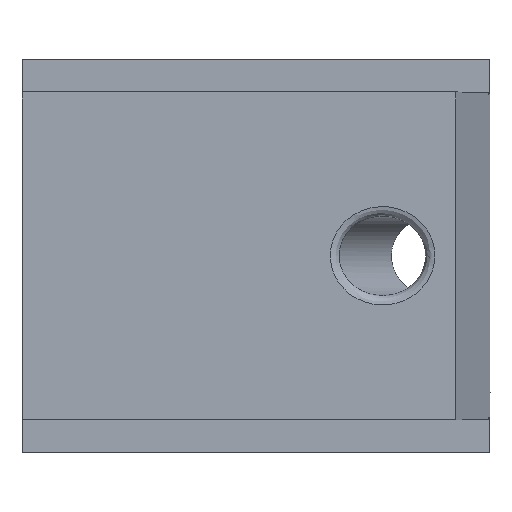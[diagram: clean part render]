
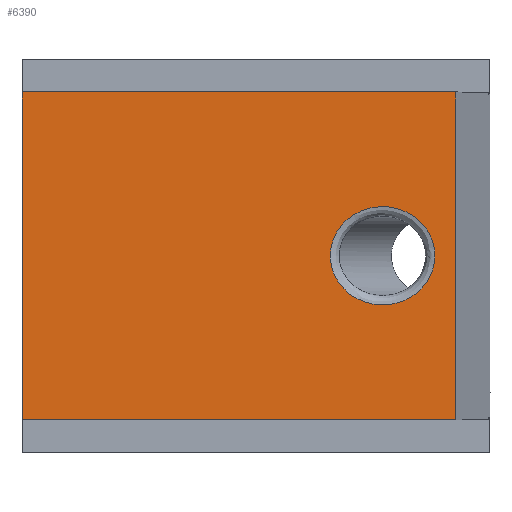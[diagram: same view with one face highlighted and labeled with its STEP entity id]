
A CAD part, top view. The second image highlights one B-rep face of the part: STEP entity #6390.
In plain terms, the highlighted planar face has unit normal (0, 0, 1).
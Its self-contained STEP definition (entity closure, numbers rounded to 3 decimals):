
#220 = CARTESIAN_POINT ( 'NONE',  ( 44.111, -10.5, 16. ) ) ;
#545 = ORIENTED_EDGE ( 'NONE', *, *, #5324, .F. ) ;
#997 = DIRECTION ( 'NONE',  ( 0., -1., 0. ) ) ;
#1030 = EDGE_CURVE ( 'NONE', #3703, #2558, #10219, .T. ) ;
#1738 = EDGE_CURVE ( 'NONE', #4955, #3351, #2297, .T. ) ;
#2093 = AXIS2_PLACEMENT_3D ( 'NONE', #7666, #5732, #4144 ) ;
#2118 =( BOUNDED_CURVE ( )  B_SPLINE_CURVE ( 3, ( #9876, #220, #3754, #10979, #4641, #3647, #10810 ),
 .UNSPECIFIED., .T., .T. ) 
 B_SPLINE_CURVE_WITH_KNOTS ( ( 4, 3, 4 ),
 ( 0., 3.142, 6.283 ),
 .UNSPECIFIED. ) 
 CURVE ( )  GEOMETRIC_REPRESENTATION_ITEM ( )  RATIONAL_B_SPLINE_CURVE ( ( 1., 0.333, 0.333, 1., 0.333, 0.333, 1. ) ) 
 REPRESENTATION_ITEM ( '' )  );
#2256 = PLANE ( 'NONE',  #2093 ) ;
#2297 = LINE ( 'NONE', #9469, #7088 ) ;
#2299 = LINE ( 'NONE', #9471, #9490 ) ;
#2301 = ORIENTED_EDGE ( 'NONE', *, *, #2825, .T. ) ;
#2558 = VERTEX_POINT ( 'NONE', #9972 ) ;
#2825 = EDGE_CURVE ( 'NONE', #2558, #3351, #2299, .T. ) ;
#2950 = DIRECTION ( 'NONE',  ( 1., 0., 0. ) ) ;
#3184 = EDGE_CURVE ( 'NONE', #9071, #9071, #2118, .T. ) ;
#3294 = ORIENTED_EDGE ( 'NONE', *, *, #3184, .T. ) ;
#3351 = VERTEX_POINT ( 'NONE', #7976 ) ;
#3647 = CARTESIAN_POINT ( 'NONE',  ( 44.111, 10.5, 16. ) ) ;
#3703 = VERTEX_POINT ( 'NONE', #11609 ) ;
#3754 = CARTESIAN_POINT ( 'NONE',  ( 32.937, -10.5, 16. ) ) ;
#4144 = DIRECTION ( 'NONE',  ( -1., 0., 0. ) ) ;
#4641 = CARTESIAN_POINT ( 'NONE',  ( 32.937, 10.5, 16. ) ) ;
#4955 = VERTEX_POINT ( 'NONE', #10388 ) ;
#5212 = LINE ( 'NONE', #10127, #6265 ) ;
#5324 = EDGE_CURVE ( 'NONE', #3703, #4955, #5212, .T. ) ;
#5732 = DIRECTION ( 'NONE',  ( 0., 0., -1. ) ) ;
#5855 = ORIENTED_EDGE ( 'NONE', *, *, #1030, .T. ) ;
#5886 = DIRECTION ( 'NONE',  ( 0., -1., 0. ) ) ;
#6265 = VECTOR ( 'NONE', #2950, 1000. ) ;
#6383 = FACE_BOUND ( 'NONE', #9536, .T. ) ;
#6390 = ADVANCED_FACE ( 'NONE', ( #6383, #9085 ), #2256, .F. ) ;
#6836 = DIRECTION ( 'NONE',  ( 1., 0., 0. ) ) ;
#7088 = VECTOR ( 'NONE', #5886, 1000. ) ;
#7666 = CARTESIAN_POINT ( 'NONE',  ( 0., 17.5, 16. ) ) ;
#7976 = CARTESIAN_POINT ( 'NONE',  ( 46.36, -17.5, 16. ) ) ;
#8074 = EDGE_LOOP ( 'NONE', ( #2301, #8856, #545, #5855 ) ) ;
#8856 = ORIENTED_EDGE ( 'NONE', *, *, #1738, .F. ) ;
#9055 = CARTESIAN_POINT ( 'NONE',  ( 0., 17.5, 16. ) ) ;
#9071 = VERTEX_POINT ( 'NONE', #11482 ) ;
#9085 = FACE_OUTER_BOUND ( 'NONE', #8074, .T. ) ;
#9144 = VECTOR ( 'NONE', #997, 1000. ) ;
#9469 = CARTESIAN_POINT ( 'NONE',  ( 46.36, 17.5, 16. ) ) ;
#9471 = CARTESIAN_POINT ( 'NONE',  ( 0., -17.5, 16. ) ) ;
#9490 = VECTOR ( 'NONE', #6836, 1000. ) ;
#9536 = EDGE_LOOP ( 'NONE', ( #3294 ) ) ;
#9876 = CARTESIAN_POINT ( 'NONE',  ( 44.111, 0., 16. ) ) ;
#9972 = CARTESIAN_POINT ( 'NONE',  ( 0., -17.5, 16. ) ) ;
#10127 = CARTESIAN_POINT ( 'NONE',  ( 0., 17.5, 16. ) ) ;
#10219 = LINE ( 'NONE', #9055, #9144 ) ;
#10388 = CARTESIAN_POINT ( 'NONE',  ( 46.36, 17.5, 16. ) ) ;
#10810 = CARTESIAN_POINT ( 'NONE',  ( 44.111, 0., 16. ) ) ;
#10979 = CARTESIAN_POINT ( 'NONE',  ( 32.937, 0., 16. ) ) ;
#11482 = CARTESIAN_POINT ( 'NONE',  ( 44.111, 0., 16. ) ) ;
#11609 = CARTESIAN_POINT ( 'NONE',  ( 0., 17.5, 16. ) ) ;
